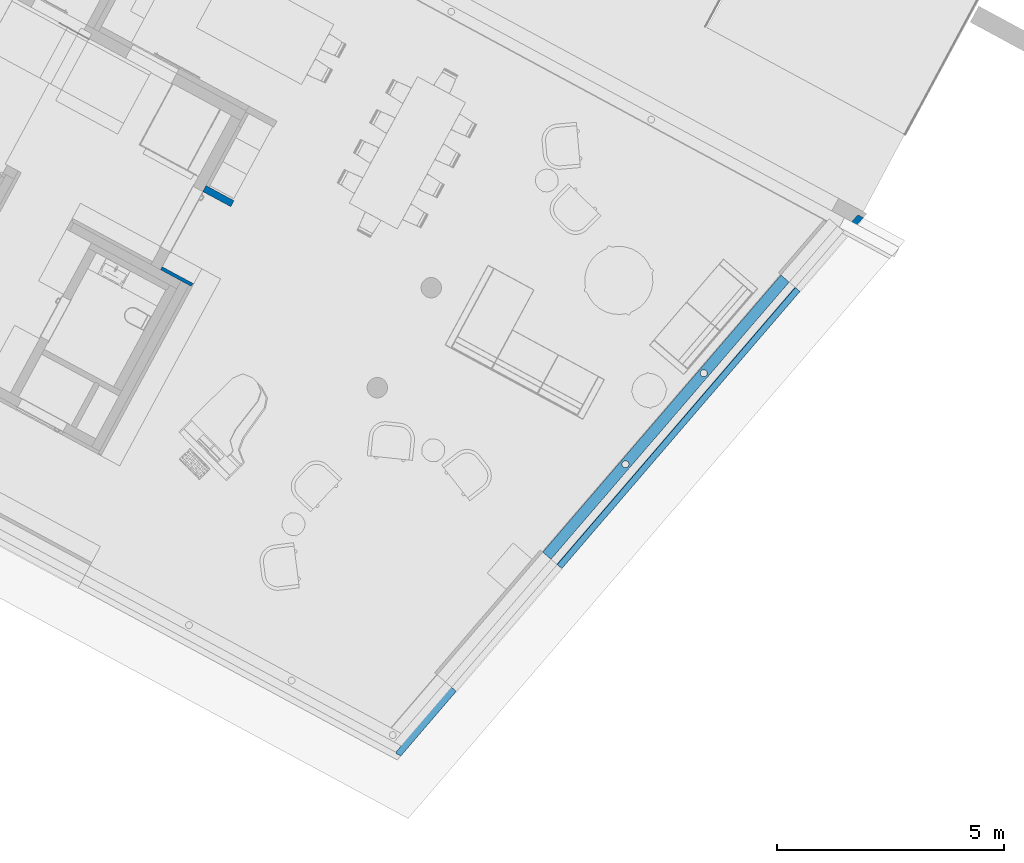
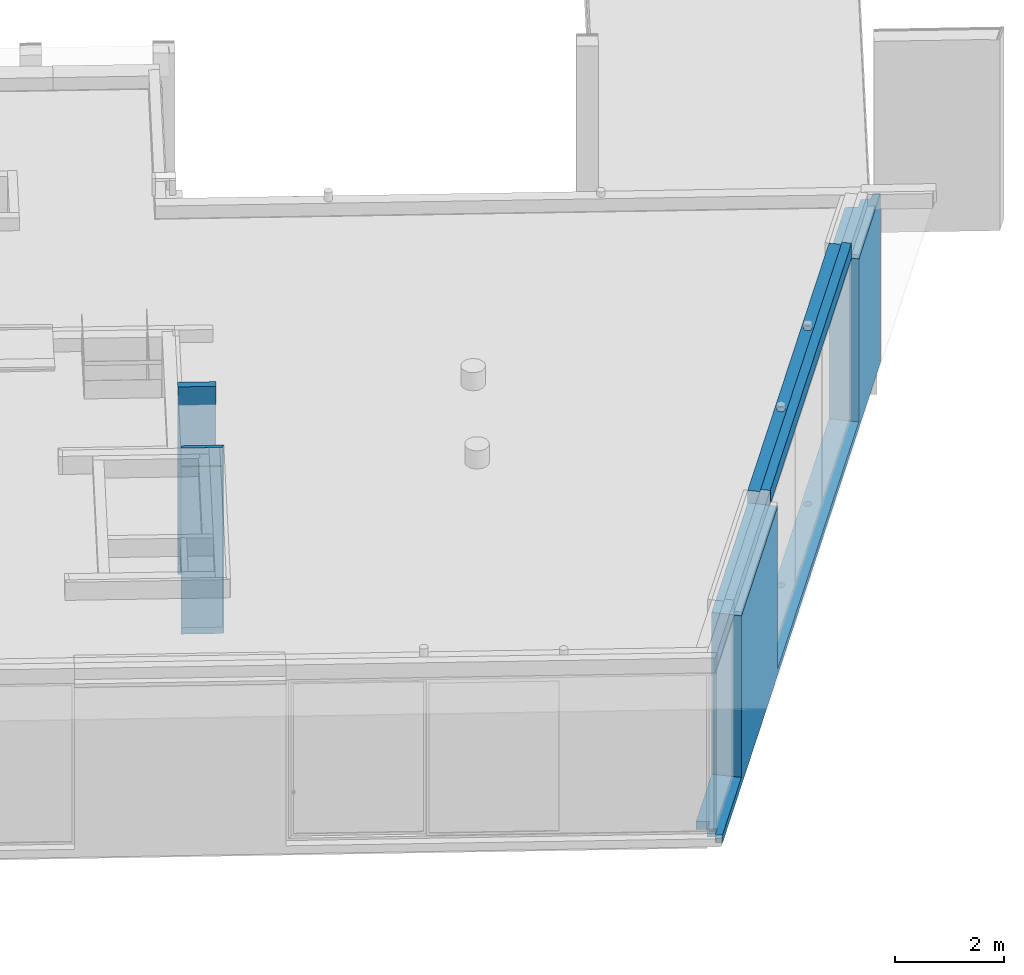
# One storey, part 9 of 52: 4 walls, 2 openings.
"""IFC2X3 building model written with IfcOpenShell, lengths in metres."""

from ifc_helpers import new_model, entity, si_unit, converted_unit, derived_unit, money_unit, direction, frame, origin_with_axes, origin_2d_with_axis, place, context, subcontext, project, spatial, rectangle, extrude, faceted_brep, material, material_list, type_object, element, save


model = new_model("IFC2X3")

# Units and contexts
model_context = context("Model", 3, precision=1e-05, world=origin_with_axes(), true_north=direction((0.0, 1.0)))
body_context = subcontext(model_context, "Body", "Model", "MODEL_VIEW")
ifc_project = project(units=[si_unit("LENGTHUNIT", "METRE"), si_unit("AREAUNIT", "SQUARE_METRE"), si_unit("VOLUMEUNIT", "CUBIC_METRE"), converted_unit("PLANEANGLEUNIT", "DEGREE", entity("IfcPlaneAngleMeasure", 0.0174532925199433), si_unit("PLANEANGLEUNIT", "RADIAN"), dimensions=[0, 0, 0, 0, 0, 0, 0]), money_unit("EUR"), converted_unit("TIMEUNIT", "Year", entity("IfcTimeMeasure", 31556926.0), si_unit("TIMEUNIT", "SECOND"), dimensions=[0, 0, 1, 0, 0, 0, 0]), si_unit("MASSUNIT", "GRAM", prefix="KILO"), si_unit("THERMODYNAMICTEMPERATUREUNIT", "DEGREE_CELSIUS"), si_unit("LUMINOUSINTENSITYUNIT", "LUMEN"), si_unit("ENERGYUNIT", "JOULE", prefix="MEGA"), derived_unit("THERMALCONDUCTANCEUNIT", [(si_unit("POWERUNIT", "WATT"), 1), (si_unit("LENGTHUNIT", "METRE"), -1), (si_unit("THERMODYNAMICTEMPERATUREUNIT", "KELVIN"), -1)]), derived_unit("SPECIFICHEATCAPACITYUNIT", [(si_unit("ENERGYUNIT", "JOULE"), 1), (si_unit("MASSUNIT", "GRAM", prefix="KILO"), -1), (si_unit("THERMODYNAMICTEMPERATUREUNIT", "KELVIN"), -1)]), derived_unit("MASSDENSITYUNIT", [(si_unit("MASSUNIT", "GRAM", prefix="KILO"), 1), (si_unit("VOLUMEUNIT", "CUBIC_METRE"), -1)])], contexts=[model_context])

# Site, building, storey
site_placement = place(None, frame((-3.949935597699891, 1.740105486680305, 0.0), z_axis=(0.0, 0.0, 1.0), x_axis=(0.8799804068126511, -0.475009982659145, 0.0)))
site = spatial("IfcSite", under=ifc_project, at=site_placement, Name="Gelände", CompositionType="ELEMENT")
building_placement = place(site_placement, origin_with_axes())
building = spatial("IfcBuilding", under=site, at=building_placement, Name="Gebäude", CompositionType="ELEMENT")
storey_placement = place(building_placement, origin_with_axes())
storey = spatial("IfcBuildingStorey", under=building, at=storey_placement, Name="Erdgeschoss", CompositionType="ELEMENT", Elevation=0.0)

# Wall, openings
ifc_material_1 = material(Name="_SIWH - Beton, Stahlbeton")
ifc_material_2 = material(Name="_SIWH - Dämmung, weich Mineralwolle")
ifc_material_3 = material(Name="_SIWH - Luftschicht vertikal")
ifc_material_4 = material(Name="_SIWH - MW Vormauerziegel")
ifc_material_list_1 = material_list([ifc_material_1, ifc_material_2, ifc_material_3, ifc_material_4])
wall_type_1 = type_object("IfcWallType", Name="_SIWH - WA | Stb. 24+WD 18+LS 2+Verblender 11,5 | 55,5cm 555", PredefinedType="NOTDEFINED")
wall_1_placement = place(storey_placement, frame((26.86187507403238, 0.224983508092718, -0.1800000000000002), z_axis=(0.0, 0.0, 1.0), x_axis=(0.213378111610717, 0.9769696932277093, 0.0)))
wall_1 = element("IfcWall", 1, at=wall_1_placement, inside=storey, type_object=wall_type_1, material=ifc_material_list_1, Name="A-Wand028", context=body_context, shape_type="Brep", body=[
    faceted_brep([(1.738773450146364, 0.2400000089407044, 3.799999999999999), (1.738773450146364, 0.125, 3.799999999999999), (1.738773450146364, -1.7881415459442e-08, 3.799999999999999), (5.300880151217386, 0.0, 3.799999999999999), (5.300880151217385, 0.125, 3.799999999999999), (5.300880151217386, 0.2399999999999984, 3.799999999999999), (1.738773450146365, 0.2400000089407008, 0.1800000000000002), (1.738773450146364, 0.125, 0.1800000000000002), (1.738773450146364, 0.0, 0.1800000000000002), (0.2456575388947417, 0.0, 0.1800000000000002), (0.2456575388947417, 0.0, 0.0), (14.96265717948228, 0.0, 0.0), (14.96265717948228, 0.0, 3.799999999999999), (13.34196864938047, 0.0, 3.799999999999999), (13.34196864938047, 0.0, 0.15), (5.300880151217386, 0.0, 0.15), (5.300880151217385, 0.125, 0.15), (5.300880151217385, 0.2399999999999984, 0.15), (13.34196864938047, 0.2399999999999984, 0.15), (13.34196864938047, 0.2399999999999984, 3.799999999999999), (14.91023923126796, 0.240000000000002, 3.799999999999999), (14.91023923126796, 0.240000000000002, 0.0), (0.1932397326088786, 0.240000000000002, 0.0), (0.1932397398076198, 0.2400000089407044, 0.1800000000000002), (0.2183565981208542, 0.125, 0.1800000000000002), (10.55112971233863, 0.1814866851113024, 0.0), (10.53431609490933, 0.1646730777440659, 0.0), (10.52352108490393, 0.1434866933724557, 0.0), (10.519801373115, 0.1200014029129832, 0.0), (10.52352107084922, 0.09651611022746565, 0.0), (10.53431606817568, 0.07532971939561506, 0.0), (10.55112967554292, 0.0585161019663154, 0.0), (10.57231605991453, 0.04772109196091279, 0.0), (10.595801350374, 0.04400138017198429, 0.0), (10.61928664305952, 0.04772107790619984, 0.0), (10.64047303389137, 0.05851607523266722, 0.0), (10.65728665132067, 0.07532968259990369, 0.0), (10.66808166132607, 0.09651606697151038, 0.0), (10.671801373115, 0.1200013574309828, 0.0), (10.66808167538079, 0.143486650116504, 0.0), (10.65728667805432, 0.1646730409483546, 0.0), (10.64047307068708, 0.1814866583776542, 0.0), (10.61928668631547, 0.1922816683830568, 0.0), (10.595801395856, 0.1960013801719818, 0.0), (10.57231610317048, 0.1922816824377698, 0.0), (7.910001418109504, 0.181487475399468, 0.0), (7.893187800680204, 0.164673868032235, 0.0), (7.8823927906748, 0.1434874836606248, 0.0), (7.878673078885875, 0.1200021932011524, 0.0), (7.882392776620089, 0.09651690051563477, 0.0), (7.893187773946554, 0.07533050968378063, 0.0), (7.910001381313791, 0.05851689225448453, 0.0), (7.931187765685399, 0.04772188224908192, 0.0), (7.954673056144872, 0.04400217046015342, 0.0), (7.978158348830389, 0.04772186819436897, 0.0), (7.999344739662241, 0.05851686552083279, 0.0), (8.01615835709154, 0.07533047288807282, 0.0), (8.026953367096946, 0.09651685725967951, 0.0), (8.030673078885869, 0.120002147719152, 0.0), (8.026953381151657, 0.1434874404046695, 0.0), (8.01615838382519, 0.1646738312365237, 0.0), (7.999344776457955, 0.1814874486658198, 0.0), (7.978158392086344, 0.192282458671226, 0.0), (7.954673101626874, 0.1960021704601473, 0.0), (7.931187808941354, 0.1922824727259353, 0.0), (13.34196864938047, 0.1249999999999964, 3.799999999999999), (13.34196864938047, 0.1249999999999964, 0.15), (7.878673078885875, 0.1200021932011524, 0.15), (7.879464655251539, 0.125, 0.15), (10.67100966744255, 0.125, 0.15), (10.671801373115, 0.1200013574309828, 0.15), (10.66808166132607, 0.09651606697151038, 0.15), (10.65728665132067, 0.07532968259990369, 0.15), (10.64047303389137, 0.05851607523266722, 0.15), (10.61928664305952, 0.04772107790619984, 0.15), (10.595801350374, 0.04400138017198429, 0.15), (10.57231605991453, 0.04772109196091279, 0.15), (10.55112967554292, 0.0585161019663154, 0.15), (10.53431606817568, 0.07532971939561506, 0.15), (10.52352107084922, 0.09651611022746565, 0.15), (10.519801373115, 0.1200014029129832, 0.15), (10.52059307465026, 0.125, 0.15), (8.029881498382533, 0.125, 0.15), (8.030673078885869, 0.120002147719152, 0.15), (8.026953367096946, 0.09651685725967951, 0.15), (8.01615835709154, 0.07533047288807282, 0.15), (7.999344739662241, 0.05851686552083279, 0.15), (7.978158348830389, 0.04772186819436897, 0.15), (7.954673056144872, 0.04400217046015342, 0.15), (7.931187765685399, 0.04772188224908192, 0.15), (7.910001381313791, 0.05851689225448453, 0.15), (7.893187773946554, 0.07533050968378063, 0.15), (7.882392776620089, 0.09651690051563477, 0.15), (10.66808167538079, 0.143486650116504, 0.15), (7.8823927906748, 0.1434874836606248, 0.15), (7.893187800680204, 0.164673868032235, 0.15), (7.910001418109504, 0.181487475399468, 0.15), (7.931187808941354, 0.1922824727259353, 0.15), (7.954673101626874, 0.1960021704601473, 0.15), (7.978158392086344, 0.192282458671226, 0.15), (7.999344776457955, 0.1814874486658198, 0.15), (8.01615838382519, 0.1646738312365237, 0.15), (8.026953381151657, 0.1434874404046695, 0.15), (10.52352108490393, 0.1434866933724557, 0.15), (10.53431609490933, 0.1646730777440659, 0.15), (10.55112971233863, 0.1814866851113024, 0.15), (10.57231610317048, 0.1922816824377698, 0.15), (10.595801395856, 0.1960013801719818, 0.15), (10.61928668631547, 0.1922816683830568, 0.15), (10.64047307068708, 0.1814866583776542, 0.15), (10.65728667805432, 0.1646730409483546, 0.15)], [[[0, 1, 2, 3, 4, 5]], [[1, 0, 6, 7]], [[8, 2, 1, 7]], [[8, 9, 10, 11, 12, 13, 14, 15, 3, 2]], [[15, 16, 4, 3]], [[17, 5, 4, 16]], [[6, 0, 5, 17, 18, 19, 20, 21, 22, 23]], [[6, 23, 24, 7]], [[9, 8, 7, 24]], [[24, 23, 22, 10, 9]], [[21, 11, 10, 22], [25, 26, 27, 28, 29, 30, 31, 32, 33, 34, 35, 36, 37, 38, 39, 40, 41, 42, 43, 44], [45, 46, 47, 48, 49, 50, 51, 52, 53, 54, 55, 56, 57, 58, 59, 60, 61, 62, 63, 64]], [[11, 21, 20, 12]], [[20, 19, 65, 13, 12]], [[13, 65, 66, 14]], [[67, 68, 16, 15, 14, 66, 69, 70, 71, 72, 73, 74, 75, 76, 77, 78, 79, 80, 81, 82, 83, 84, 85, 86, 87, 88, 89, 90, 91, 92]], [[93, 69, 66, 18, 17, 16, 68, 94, 95, 96, 97, 98, 99, 100, 101, 102, 82, 81, 103, 104, 105, 106, 107, 108, 109, 110]], [[18, 66, 65, 19]], [[25, 105, 104, 26]], [[26, 104, 103, 27]], [[27, 103, 81, 80, 28]], [[80, 79, 29, 28]], [[79, 78, 30, 29]], [[78, 77, 31, 30]], [[77, 76, 32, 31]], [[76, 75, 33, 32]], [[75, 74, 34, 33]], [[74, 73, 35, 34]], [[73, 72, 36, 35]], [[72, 71, 37, 36]], [[71, 70, 38, 37]], [[70, 69, 93, 39, 38]], [[39, 93, 110, 40]], [[40, 110, 109, 41]], [[41, 109, 108, 42]], [[42, 108, 107, 43]], [[43, 107, 106, 44]], [[44, 106, 105, 25]], [[45, 96, 95, 46]], [[46, 95, 94, 47]], [[47, 94, 68, 67, 48]], [[67, 92, 49, 48]], [[92, 91, 50, 49]], [[91, 90, 51, 50]], [[90, 89, 52, 51]], [[89, 88, 53, 52]], [[88, 87, 54, 53]], [[87, 86, 55, 54]], [[86, 85, 56, 55]], [[85, 84, 57, 56]], [[84, 83, 58, 57]], [[83, 82, 102, 59, 58]], [[59, 102, 101, 60]], [[60, 101, 100, 61]], [[61, 100, 99, 62]], [[62, 99, 98, 63]], [[63, 98, 97, 64]], [[64, 97, 96, 45]]]),
    faceted_brep([(1.738773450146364, -1.7881415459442e-08, 3.799999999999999), (1.738773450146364, -0.1800000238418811, 3.799999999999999), (5.300880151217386, -0.1800000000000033, 3.799999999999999), (5.300880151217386, 0.0, 3.799999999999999), (1.738773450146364, -0.1800000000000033, 0.1800000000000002), (1.738773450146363, 0.0, 0.1800000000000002), (0.03931335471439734, -0.1800000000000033, 0.1800000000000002), (0.03931335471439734, -0.1800000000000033, 0.0), (15.24762820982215, -0.1800000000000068, 0.0), (15.24762820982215, -0.1800000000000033, 3.799999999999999), (13.34196864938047, -0.1799999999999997, 3.799999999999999), (13.34196864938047, -0.1800000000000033, 0.15), (5.300880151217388, -0.1800000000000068, 0.15), (5.300880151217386, 0.0, 0.15), (13.34196864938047, 0.0, 0.15), (13.34196864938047, 0.0, 3.799999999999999), (15.20831474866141, 0.0, 3.799999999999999), (15.20831474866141, 0.0, 0.0), (0.0, 0.0, 0.0), (0.0, 0.0, 0.1800000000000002)], [[[0, 1, 2, 3]], [[4, 1, 0, 5]], [[4, 6, 7, 8, 9, 10, 11, 12, 2, 1]], [[13, 3, 2, 12]], [[5, 0, 3, 13, 14, 15, 16, 17, 18, 19]], [[6, 4, 5, 19]], [[6, 19, 18, 7]], [[18, 17, 8, 7]], [[9, 8, 17, 16]], [[16, 15, 10, 9]], [[14, 11, 10, 15]], [[13, 12, 11, 14]]]),
    faceted_brep([(1.738773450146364, -0.1800000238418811, 3.799999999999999), (1.738773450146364, -0.2000000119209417, 3.799999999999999), (5.300880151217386, -0.2000000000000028, 3.799999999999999), (5.300880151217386, -0.1800000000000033, 3.799999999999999), (1.738773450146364, -0.2000000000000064, 0.1800000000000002), (1.738773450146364, -0.1799999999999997, 0.1800000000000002), (-0.1405616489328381, -0.1999999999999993, 0.1800000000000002), (-0.1405616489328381, -0.1999999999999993, 0.0), (15.43623954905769, -0.2000000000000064, 0.0), (15.43623954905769, -0.2000000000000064, 3.799999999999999), (13.34196864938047, -0.2000000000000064, 3.799999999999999), (13.34196864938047, -0.2000000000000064, 0.15), (5.300880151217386, -0.2000000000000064, 0.15), (5.300880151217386, -0.1800000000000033, 0.15), (13.34196864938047, -0.1799999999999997, 0.15), (13.34196864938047, -0.1799999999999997, 3.799999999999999), (15.4318713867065, -0.1800000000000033, 3.799999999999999), (15.4318713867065, -0.1800000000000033, 0.0), (-0.1449297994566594, -0.1800000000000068, 0.0), (-0.1449297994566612, -0.1800000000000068, 0.1800000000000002)], [[[0, 1, 2, 3]], [[4, 1, 0, 5]], [[4, 6, 7, 8, 9, 10, 11, 12, 2, 1]], [[13, 3, 2, 12]], [[5, 0, 3, 13, 14, 15, 16, 17, 18, 19]], [[6, 4, 5, 19]], [[6, 19, 18, 7]], [[18, 17, 8, 7]], [[9, 8, 17, 16]], [[16, 15, 10, 9]], [[14, 11, 10, 15]], [[13, 12, 11, 14]]]),
    faceted_brep([(1.738773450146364, -0.2000000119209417, 3.799999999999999), (1.738773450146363, -0.3149999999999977, 3.799999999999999), (5.300880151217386, -0.3149999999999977, 3.799999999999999), (5.300880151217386, -0.1999999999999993, 3.799999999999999), (1.738773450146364, -0.3150000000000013, 0.1800000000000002), (1.738773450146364, -0.2000000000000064, 0.1800000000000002), (-0.1359162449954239, -0.3150000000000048, 0.1800000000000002), (-0.1359162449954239, -0.3150000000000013, 0.0), (15.48182794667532, -0.3150000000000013, 0.0), (15.48182794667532, -0.3150000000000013, 3.799999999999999), (13.34196864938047, -0.3150000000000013, 3.799999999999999), (13.34196864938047, -0.3150000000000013, 0.15), (5.300880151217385, -0.3150000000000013, 0.15), (5.300880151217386, -0.2000000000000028, 0.15), (13.34196864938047, -0.2000000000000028, 0.15), (13.34196864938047, -0.2000000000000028, 3.799999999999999), (15.45671101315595, -0.2000000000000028, 3.799999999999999), (15.45671101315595, -0.2000000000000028, 0.0), (-0.1610331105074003, -0.1999999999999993, 0.0), (-0.1610331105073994, -0.1999999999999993, 0.1800000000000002)], [[[0, 1, 2, 3]], [[4, 1, 0, 5]], [[4, 6, 7, 8, 9, 10, 11, 12, 2, 1]], [[13, 3, 2, 12]], [[5, 0, 3, 13, 14, 15, 16, 17, 18, 19]], [[6, 4, 5, 19]], [[6, 19, 18, 7]], [[18, 17, 8, 7]], [[9, 8, 17, 16]], [[16, 15, 10, 9]], [[14, 11, 10, 15]], [[13, 12, 11, 14]]]),
])
opening_1_placement = place(wall_1_placement, frame((0.9454091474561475, 0.0, 0.1800000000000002), z_axis=(0.0, 0.0, 1.0), x_axis=(1.0, 0.0, 0.0)))
element("IfcOpeningElement", 2, at=opening_1_placement, cuts=wall_1, Name="Fenster-003", context=body_context, shape_type="Brep", body=[
    faceted_brep([(0.7933643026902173, 0.125, 0.0), (0.7933643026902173, 0.125, 3.619999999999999), (0.7933643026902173, -3.486385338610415, 3.619999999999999), (0.7933643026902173, -3.486385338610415, 0.0), (0.7933643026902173, 2.159522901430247, 0.0), (0.7933643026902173, 2.159522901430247, 3.619999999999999), (-0.8447634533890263, 0.125, 3.619999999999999), (-1.19903662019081, -0.3150004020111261, 3.619999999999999), (-1.19903662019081, -3.486385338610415, 3.619999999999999), (-1.19903662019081, -3.486385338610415, 0.0), (-0.8447634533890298, 0.1249999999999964, 0.0), (-1.19903662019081, -0.3150004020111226, 0.0)], [[[0, 1, 2, 3]], [[1, 0, 4, 5]], [[1, 6, 7, 8, 2]], [[8, 9, 3, 2]], [[10, 0, 3, 9, 11]], [[0, 10, 4]], [[4, 10, 11, 7, 6, 5]], [[6, 1, 5]], [[11, 9, 8, 7]]]),
])
opening_2_placement = place(wall_1_placement, frame((9.321424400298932, 0.0, 0.15), z_axis=(0.0, 0.0, 1.0), x_axis=(1.0, 0.0, 0.0)))
element("IfcOpeningElement", 3, at=opening_2_placement, cuts=wall_1, Name="Fenster-003", context=body_context, shape_type="SweptSolid", body=[
    extrude(rectangle(XDim=8.041088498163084, YDim=3.649999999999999, at=origin_2d_with_axis()), frame((0.0, 0.1250000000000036, 1.825), z_axis=(0.0, -1.0, 0.0), x_axis=(-1.0, 0.0, 0.0)), (0.0, 0.0, 1.0), 0.9949999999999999),
    extrude(rectangle(XDim=8.041088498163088, YDim=3.649999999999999, at=origin_2d_with_axis()), frame((0.0, 0.1250000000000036, 1.825), z_axis=(0.0, 1.0, 0.0), x_axis=(-1.0, 0.0, 0.0)), (0.0, 0.0, 1.0), 0.6699999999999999),
])

# Walls
ifc_material_list_2 = material_list([ifc_material_1, ifc_material_2])
wall_type_2 = type_object("IfcWallType", Name="_SIWH - WA | Stb. 24+WD 18 | 42cm 420", PredefinedType="NOTDEFINED")
wall_2_placement = place(storey_placement, frame((27.99296098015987, 5.403786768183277, 3.619999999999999), z_axis=(0.0, 0.0, 1.0), x_axis=(0.2133789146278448, 0.9769695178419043, 0.0)))
element("IfcWall", 4, at=wall_2_placement, inside=storey, type_object=wall_type_2, material=ifc_material_list_2, Name="A-Wand014", context=body_context, shape_type="Brep", body=[
    faceted_brep([(8.04108584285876, 0.240000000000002, 0.0), (8.04108584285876, 0.0, 0.0), (0.0, 0.0, 0.0), (0.0, 0.2399999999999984, 0.0), (5.27143321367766, 0.0477188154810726, 0.0), (5.294918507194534, 0.04399912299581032, 0.0), (5.318403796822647, 0.04771884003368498, 0.0), (5.339590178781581, 0.05851385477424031, 0.0), (5.356403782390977, 0.07532747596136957, 0.0), (5.367198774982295, 0.09651386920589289, 0.0), (5.370918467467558, 0.1199991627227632, 0.0), (5.367198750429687, 0.1434844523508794, 0.0), (5.356403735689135, 0.1646708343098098, 0.0), (5.339590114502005, 0.1814844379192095, 0.0), (5.318403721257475, 0.1922794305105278, 0.0), (5.294918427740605, 0.19599912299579, 0.0), (5.271433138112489, 0.1922794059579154, 0.0), (5.250246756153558, 0.1814843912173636, 0.0), (5.233433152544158, 0.1646707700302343, 0.0), (5.22263815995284, 0.1434843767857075, 0.0), (5.218918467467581, 0.1199990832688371, 0.0), (5.222638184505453, 0.09651379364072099, 0.0), (5.233433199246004, 0.07532741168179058, 0.0), (5.250246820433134, 0.05851380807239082, 0.0), (2.630304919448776, 0.04771743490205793, 0.0), (2.653790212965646, 0.04399774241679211, 0.0), (2.677275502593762, 0.04771745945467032, 0.0), (2.698461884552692, 0.05851247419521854, 0.0), (2.715275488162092, 0.07532609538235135, 0.0), (2.726070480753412, 0.09651248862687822, 0.0), (2.729790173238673, 0.1199977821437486, 0.0), (2.726070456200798, 0.1434830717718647, 0.0), (2.71527544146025, 0.1646694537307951, 0.0), (2.698461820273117, 0.1814830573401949, 0.0), (2.67727542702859, 0.1922780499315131, 0.0), (2.65379013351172, 0.1959977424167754, 0.0), (2.630304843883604, 0.1922780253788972, 0.0), (2.609118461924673, 0.1814830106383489, 0.0), (2.592304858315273, 0.1646693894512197, 0.0), (2.581509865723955, 0.1434829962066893, 0.0), (2.577790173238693, 0.1199977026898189, 0.0), (2.581509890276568, 0.09651241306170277, 0.0), (2.592304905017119, 0.07532603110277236, 0.0), (2.609118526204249, 0.05851242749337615, 0.0), (8.04108584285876, 0.240000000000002, 0.2800000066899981), (8.041085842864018, 3.991684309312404e-06, 0.2800000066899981), (0.0, 1.458025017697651e-05, 0.2800000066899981), (0.0, 0.2399999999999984, 0.2800000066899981), (5.27143321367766, 0.0477188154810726, 0.2800000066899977), (5.294918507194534, 0.04399912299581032, 0.2800000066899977), (5.318403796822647, 0.04771884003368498, 0.2800000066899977), (5.339590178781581, 0.05851385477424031, 0.2800000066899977), (5.356403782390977, 0.07532747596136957, 0.2800000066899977), (5.367198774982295, 0.09651386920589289, 0.2800000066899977), (5.370918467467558, 0.1199991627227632, 0.2800000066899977), (5.367198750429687, 0.1434844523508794, 0.2800000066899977), (5.356403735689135, 0.1646708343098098, 0.2800000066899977), (5.339590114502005, 0.1814844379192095, 0.2800000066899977), (5.318403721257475, 0.1922794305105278, 0.2800000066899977), (5.294918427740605, 0.19599912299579, 0.2800000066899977), (5.271433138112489, 0.1922794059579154, 0.2800000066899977), (5.250246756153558, 0.1814843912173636, 0.2800000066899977), (5.233433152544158, 0.1646707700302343, 0.2800000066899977), (5.22263815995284, 0.1434843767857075, 0.2800000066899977), (5.218918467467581, 0.1199990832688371, 0.2800000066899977), (5.222638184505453, 0.09651379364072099, 0.2800000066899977), (5.233433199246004, 0.07532741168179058, 0.2800000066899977), (5.250246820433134, 0.05851380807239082, 0.2800000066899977), (2.630304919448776, 0.04771743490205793, 0.2800000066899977), (2.653790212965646, 0.04399774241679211, 0.2800000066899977), (2.677275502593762, 0.04771745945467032, 0.2800000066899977), (2.698461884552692, 0.05851247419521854, 0.2800000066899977), (2.715275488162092, 0.07532609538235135, 0.2800000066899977), (2.726070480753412, 0.09651248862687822, 0.2800000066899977), (2.729790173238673, 0.1199977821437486, 0.2800000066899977), (2.726070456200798, 0.1434830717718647, 0.2800000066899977), (2.71527544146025, 0.1646694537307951, 0.2800000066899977), (2.698461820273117, 0.1814830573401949, 0.2800000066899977), (2.67727542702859, 0.1922780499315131, 0.2800000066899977), (2.65379013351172, 0.1959977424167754, 0.2800000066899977), (2.630304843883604, 0.1922780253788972, 0.2800000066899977), (2.609118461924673, 0.1814830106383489, 0.2800000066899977), (2.592304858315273, 0.1646693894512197, 0.2800000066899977), (2.581509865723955, 0.1434829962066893, 0.2800000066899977), (2.577790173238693, 0.1199977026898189, 0.2800000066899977), (2.581509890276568, 0.09651241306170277, 0.2800000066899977), (2.592304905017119, 0.07532603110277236, 0.2800000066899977), (2.609118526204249, 0.05851242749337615, 0.2800000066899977)], [[[0, 1, 2, 3], [4, 5, 6, 7, 8, 9, 10, 11, 12, 13, 14, 15, 16, 17, 18, 19, 20, 21, 22, 23], [24, 25, 26, 27, 28, 29, 30, 31, 32, 33, 34, 35, 36, 37, 38, 39, 40, 41, 42, 43]], [[0, 44, 45, 1]], [[1, 45, 46, 2]], [[2, 46, 47, 3]], [[3, 47, 44, 0]], [[48, 49, 5, 4]], [[49, 50, 6, 5]], [[50, 51, 7, 6]], [[51, 52, 8, 7]], [[52, 53, 9, 8]], [[53, 54, 10, 9]], [[54, 55, 11, 10]], [[55, 56, 12, 11]], [[56, 57, 13, 12]], [[57, 58, 14, 13]], [[58, 59, 15, 14]], [[59, 60, 16, 15]], [[60, 61, 17, 16]], [[61, 62, 18, 17]], [[62, 63, 19, 18]], [[63, 64, 20, 19]], [[64, 65, 21, 20]], [[65, 66, 22, 21]], [[66, 67, 23, 22]], [[67, 48, 4, 23]], [[68, 69, 25, 24]], [[69, 70, 26, 25]], [[70, 71, 27, 26]], [[71, 72, 28, 27]], [[72, 73, 29, 28]], [[73, 74, 30, 29]], [[74, 75, 31, 30]], [[75, 76, 32, 31]], [[76, 77, 33, 32]], [[77, 78, 34, 33]], [[78, 79, 35, 34]], [[79, 80, 36, 35]], [[80, 81, 37, 36]], [[81, 82, 38, 37]], [[82, 83, 39, 38]], [[83, 84, 40, 39]], [[84, 85, 41, 40]], [[85, 86, 42, 41]], [[86, 87, 43, 42]], [[87, 68, 24, 43]], [[47, 46, 45, 44], [52, 51, 50, 49, 48, 67, 66, 65, 64, 63, 62, 61, 60, 59, 58, 57, 56, 55, 54, 53], [72, 71, 70, 69, 68, 87, 86, 85, 84, 83, 82, 81, 80, 79, 78, 77, 76, 75, 74, 73]]]),
    faceted_brep([(8.041085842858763, -0.1799999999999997, 0.0), (0.0, -0.1799999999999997, 0.0), (0.0, 0.0, 0.0), (8.041085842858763, 0.0, 0.0), (8.041085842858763, -0.1799999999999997, 0.330000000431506), (0.0, -0.1799999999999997, 0.330000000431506), (0.0, 0.0, 0.330000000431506), (8.041085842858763, 0.0, 0.330000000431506)], [[[0, 1, 2, 3]], [[4, 5, 1, 0]], [[2, 1, 5, 6]], [[3, 2, 6, 7]], [[0, 3, 7, 4]], [[7, 6, 5, 4]]]),
])
ifc_material_5 = material(Name="_SIWH - Installationswand, raumhoch")
ifc_material_6 = material(Name="_SIWH - Gipskarton")
ifc_material_list_3 = material_list([ifc_material_5, ifc_material_6, ifc_material_6])
wall_type_3 = type_object("IfcWallType", Name="_SIWH - WI | Vorsatz-GK 2-lagig | 7,5cm  75", PredefinedType="NOTDEFINED")
wall_3_placement = place(storey_placement, frame((18.19650044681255, 7.003053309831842, -0.1800000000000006), z_axis=(0.0, 0.0, 1.0), x_axis=(-1.0, 0.0, 0.0)))
element("IfcWall", 5, at=wall_3_placement, inside=storey, type_object=wall_type_3, material=ifc_material_list_3, Name="L-Wand006", context=body_context, shape_type="Brep", body=[
    faceted_brep([(0.7890121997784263, 0.02500000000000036, 3.780000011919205), (0.02499999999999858, 0.02500000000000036, 3.780000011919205), (0.02499999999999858, 0.02500000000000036, 0.1800000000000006), (0.7890121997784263, 0.02500000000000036, 0.1800000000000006), (0.02499999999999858, 0.07500000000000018, 3.780000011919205), (0.7890121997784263, 0.07500000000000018, 3.780000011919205), (0.02499999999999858, 0.07500000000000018, 0.1800000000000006), (0.7890121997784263, 0.07500000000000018, 0.1800000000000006)], [[[0, 1, 2, 3]], [[4, 1, 0, 5]], [[1, 4, 6, 2]], [[3, 2, 6, 7]], [[5, 0, 3, 7]], [[4, 5, 7, 6]]]),
    faceted_brep([(0.02499999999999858, 0.07500000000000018, 3.795000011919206), (0.02499999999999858, 0.02500000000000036, 3.795000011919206), (0.02499999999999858, 0.02500000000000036, 4.200000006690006), (0.02499999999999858, 0.07500000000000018, 4.200000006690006), (0.7890121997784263, 0.02500000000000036, 3.795000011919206), (0.7890121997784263, 0.07500000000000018, 3.795000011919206), (0.7890121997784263, 0.02500000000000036, 4.200000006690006), (0.7890121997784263, 0.07500000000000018, 4.200000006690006)], [[[0, 1, 2, 3]], [[4, 1, 0, 5]], [[1, 4, 6, 2]], [[6, 7, 3, 2]], [[5, 0, 3, 7]], [[4, 5, 7, 6]]]),
    faceted_brep([(0.7890121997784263, 0.01250000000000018, 0.0), (0.01249999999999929, 0.01250000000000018, 0.0), (0.01249999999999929, 0.02500000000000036, 0.0), (0.7890121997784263, 0.02500000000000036, 0.0), (0.7890121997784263, 0.01250000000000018, 4.200000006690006), (0.01249999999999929, 0.01250000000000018, 4.200000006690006), (0.01249999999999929, 0.02500000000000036, 4.200000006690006), (0.7890121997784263, 0.02500000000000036, 4.200000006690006)], [[[0, 1, 2, 3]], [[4, 5, 1, 0]], [[2, 1, 5, 6]], [[3, 2, 6, 7]], [[3, 7, 4, 0]], [[7, 6, 5, 4]]]),
    faceted_brep([(0.7890121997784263, 0.0, 0.0), (0.0, 0.0, 0.0), (0.0, 0.01250000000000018, 0.0), (0.7890121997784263, 0.01250000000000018, 0.0), (0.7890121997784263, 0.0, 4.200000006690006), (0.0, 0.0, 4.200000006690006), (0.0, 0.01250000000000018, 4.200000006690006), (0.7890121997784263, 0.01250000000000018, 4.200000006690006)], [[[0, 1, 2, 3]], [[4, 5, 1, 0]], [[2, 1, 5, 6]], [[3, 2, 6, 7]], [[3, 7, 4, 0]], [[7, 6, 5, 4]]]),
])
ifc_material_list_4 = material_list([ifc_material_6, ifc_material_6, ifc_material_5, ifc_material_6, ifc_material_6])
wall_type_4 = type_object("IfcWallType", Name="_SIWH - WI | Vorsatz-GK 2-lagig | 15cm 150", PredefinedType="NOTDEFINED")
wall_4_placement = place(storey_placement, frame((17.40748824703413, 8.883838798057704, -0.1799999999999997), z_axis=(0.0, 0.0, 1.0), x_axis=(0.9999999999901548, 4.437408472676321e-06, 0.0)))
element("IfcWall", 6, at=wall_4_placement, inside=storey, type_object=wall_type_4, material=ifc_material_list_4, Name="L-Wand019", context=body_context, shape_type="Brep", body=[
    faceted_brep([(0.7000267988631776, 0.1499968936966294, 0.0), (0.700026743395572, 0.1374968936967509, 0.0), (6.101436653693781e-07, 0.1374999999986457, 0.0), (6.656112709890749e-07, 0.1499999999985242, 0.0), (0.7000267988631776, 0.1499968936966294, 4.200000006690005), (0.700026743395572, 0.1374968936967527, 4.200000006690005), (6.101436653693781e-07, 0.1374999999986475, 4.200000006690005), (6.656112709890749e-07, 0.1499999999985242, 4.200000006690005)], [[[0, 1, 2, 3]], [[0, 4, 5, 1]], [[1, 5, 6, 2]], [[3, 2, 6, 7]], [[4, 0, 3, 7]], [[5, 4, 7, 6]]]),
    faceted_brep([(0.700026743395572, 0.1374968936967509, 0.0), (0.7000266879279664, 0.1249968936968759, 0.0), (5.546760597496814e-07, 0.1249999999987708, 0.0), (6.101436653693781e-07, 0.1374999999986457, 0.0), (0.700026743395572, 0.1374968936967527, 4.200000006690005), (0.7000266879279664, 0.1249968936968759, 4.200000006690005), (5.546760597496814e-07, 0.1249999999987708, 4.200000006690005), (6.101436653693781e-07, 0.1374999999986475, 4.200000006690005)], [[[0, 1, 2, 3]], [[0, 4, 5, 1]], [[1, 5, 6, 2]], [[3, 2, 6, 7]], [[4, 0, 3, 7]], [[5, 4, 7, 6]]]),
    faceted_brep([(0.7000266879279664, 0.1249968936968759, 0.0), (0.7000262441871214, 0.0249968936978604, 0.0), (1.109352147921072e-07, 0.02499999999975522, 0.0), (5.546760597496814e-07, 0.1249999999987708, 0.0), (0.7000266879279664, 0.1249968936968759, 4.200000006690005), (0.7000262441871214, 0.0249968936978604, 4.200000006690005), (1.109352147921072e-07, 0.02499999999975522, 4.200000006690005), (5.546760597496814e-07, 0.1249999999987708, 4.200000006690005)], [[[0, 1, 2, 3]], [[0, 4, 5, 1]], [[1, 5, 6, 2]], [[3, 2, 6, 7]], [[4, 0, 3, 7]], [[5, 4, 7, 6]]]),
    faceted_brep([(0.7000262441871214, 0.0249968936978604, 0.0), (0.7000261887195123, 0.0124968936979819, 0.0), (5.546760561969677e-08, 0.01249999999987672, 0.0), (1.109352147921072e-07, 0.02499999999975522, 0.0), (0.7000262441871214, 0.0249968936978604, 4.200000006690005), (0.7000261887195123, 0.01249689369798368, 4.200000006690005), (5.546760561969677e-08, 0.0124999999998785, 4.200000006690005), (1.109352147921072e-07, 0.02499999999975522, 4.200000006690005)], [[[0, 1, 2, 3]], [[0, 4, 5, 1]], [[1, 5, 6, 2]], [[3, 2, 6, 7]], [[4, 0, 3, 7]], [[5, 4, 7, 6]]]),
    faceted_brep([(0.7000261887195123, 0.0124968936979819, 0.0), (0.7000261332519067, -3.10630189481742e-06, 0.0), (0.0, 0.0, 0.0), (5.546760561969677e-08, 0.01249999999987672, 0.0), (0.7000261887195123, 0.01249689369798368, 4.200000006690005), (0.7000261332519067, -3.10630189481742e-06, 4.200000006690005), (0.0, 0.0, 4.200000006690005), (5.546760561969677e-08, 0.0124999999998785, 4.200000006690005)], [[[0, 1, 2, 3]], [[0, 4, 5, 1]], [[1, 5, 6, 2]], [[3, 2, 6, 7]], [[4, 0, 3, 7]], [[5, 4, 7, 6]]]),
])

save(model, "model.ifc")
